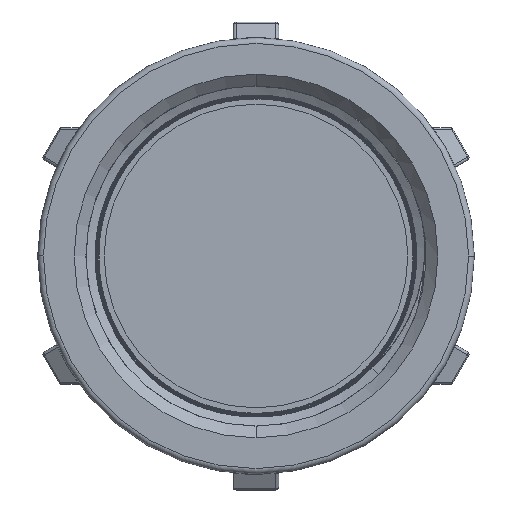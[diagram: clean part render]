
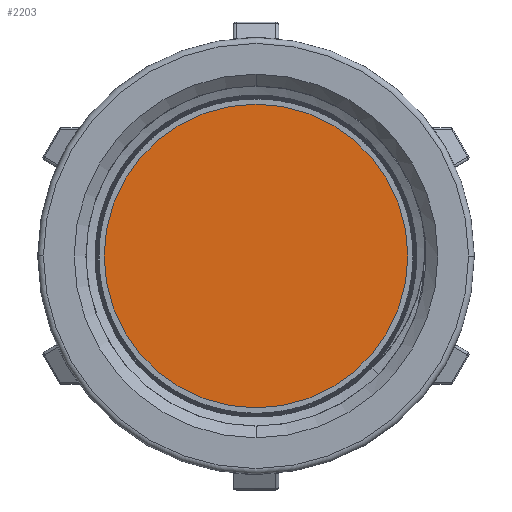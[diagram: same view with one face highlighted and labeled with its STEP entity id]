
A CAD part, front view. The second image highlights one B-rep face of the part: STEP entity #2203.
In plain terms, the highlighted planar face has unit normal (0, -1, 0).
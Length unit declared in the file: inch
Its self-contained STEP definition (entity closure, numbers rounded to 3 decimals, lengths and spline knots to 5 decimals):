
#600=VERTEX_POINT('',#9314);
#601=VERTEX_POINT('',#9316);
#746=CIRCLE('',#2339,1.04724);
#747=CIRCLE('',#2341,1.04724);
#924=EDGE_CURVE('',#600,#601,#746,.F.);
#925=EDGE_CURVE('',#601,#600,#747,.T.);
#1307=ORIENTED_EDGE('',*,*,#925,.T.);
#1308=ORIENTED_EDGE('',*,*,#924,.T.);
#1887=EDGE_LOOP('',(#1307,#1308));
#2046=FACE_BOUND('',#1887,.T.);
#2203=ADVANCED_FACE('',(#2046),#29704,.T.);
#2339=AXIS2_PLACEMENT_3D('',#9317,#2585,#2586);
#2340=AXIS2_PLACEMENT_3D('',#9318,#2587,$);
#2341=AXIS2_PLACEMENT_3D('',#9319,#2588,#2589);
#2585=DIRECTION('',(0.,1.,0.));
#2586=DIRECTION('',(1.047,0.,0.));
#2587=DIRECTION('',(0.,-1.,0.));
#2588=DIRECTION('',(0.,-1.,0.));
#2589=DIRECTION('',(1.047,0.,0.));
#9314=CARTESIAN_POINT('',(-1.04724,1.37795,0.));
#9316=CARTESIAN_POINT('',(1.04724,1.37795,0.));
#9317=CARTESIAN_POINT('',(0.,1.37795,0.));
#9318=CARTESIAN_POINT('',(0.,1.37795,0.));
#9319=CARTESIAN_POINT('',(0.,1.37795,0.));
#29704=PLANE('',#2340);
